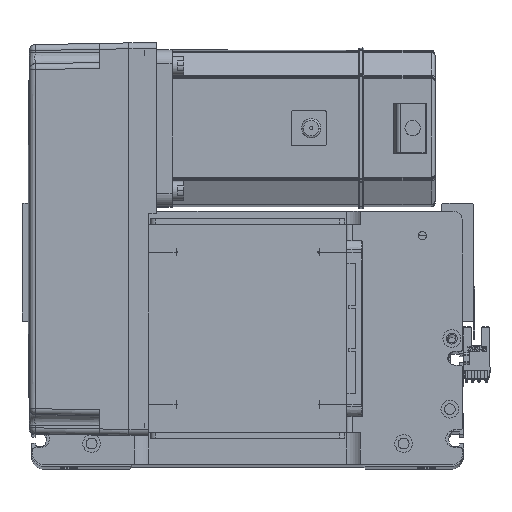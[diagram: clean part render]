
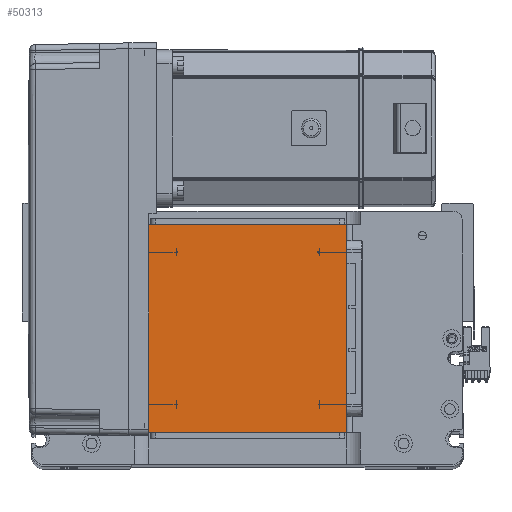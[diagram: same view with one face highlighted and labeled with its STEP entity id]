
A CAD part, top view. The second image highlights one B-rep face of the part: STEP entity #50313.
In plain terms, the highlighted planar face has unit normal (0, 0, 1).
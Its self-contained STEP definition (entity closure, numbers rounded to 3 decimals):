
#914 = VERTEX_POINT ( 'NONE', #3943 ) ;
#2169 = CARTESIAN_POINT ( 'NONE',  ( 0., 0., 115. ) ) ;
#3943 = CARTESIAN_POINT ( 'NONE',  ( -50.5, 16., 115. ) ) ;
#11441 = DIRECTION ( 'NONE',  ( 1., 0., 0. ) ) ;
#11790 = CARTESIAN_POINT ( 'NONE',  ( -50.5, 16., 115. ) ) ;
#12017 = VERTEX_POINT ( 'NONE', #14572 ) ;
#12105 = CARTESIAN_POINT ( 'NONE',  ( 50.5, 122., 115. ) ) ;
#14420 = LINE ( 'NONE', #48901, #18172 ) ;
#14572 = CARTESIAN_POINT ( 'NONE',  ( 50.5, 16., 115. ) ) ;
#14673 = EDGE_CURVE ( 'NONE', #914, #12017, #50913, .T. ) ;
#15340 = DIRECTION ( 'NONE',  ( 0., 1., 0. ) ) ;
#17588 = CARTESIAN_POINT ( 'NONE',  ( -50.5, 122., 115. ) ) ;
#17632 = PLANE ( 'NONE',  #31676 ) ;
#18172 = VECTOR ( 'NONE', #47695, 1000. ) ;
#22370 = ORIENTED_EDGE ( 'NONE', *, *, #30668, .T. ) ;
#22878 = ORIENTED_EDGE ( 'NONE', *, *, #14673, .T. ) ;
#29505 = CARTESIAN_POINT ( 'NONE',  ( -50.5, 122., 115. ) ) ;
#30399 = VECTOR ( 'NONE', #11441, 1000. ) ;
#30668 = EDGE_CURVE ( 'NONE', #36863, #914, #14420, .T. ) ;
#31265 = VECTOR ( 'NONE', #15340, 1000. ) ;
#31676 = AXIS2_PLACEMENT_3D ( 'NONE', #2169, #50120, #38848 ) ;
#33616 = DIRECTION ( 'NONE',  ( -1., 0., 0. ) ) ;
#35312 = EDGE_LOOP ( 'NONE', ( #22370, #22878, #50958, #42904 ) ) ;
#36863 = VERTEX_POINT ( 'NONE', #29505 ) ;
#38848 = DIRECTION ( 'NONE',  ( 1., 0., 0. ) ) ;
#41155 = EDGE_CURVE ( 'NONE', #41916, #36863, #51510, .T. ) ;
#41916 = VERTEX_POINT ( 'NONE', #12105 ) ;
#42904 = ORIENTED_EDGE ( 'NONE', *, *, #41155, .T. ) ;
#43041 = LINE ( 'NONE', #50955, #31265 ) ;
#44784 = EDGE_CURVE ( 'NONE', #12017, #41916, #43041, .T. ) ;
#46878 = FACE_OUTER_BOUND ( 'NONE', #35312, .T. ) ;
#47695 = DIRECTION ( 'NONE',  ( 0., -1., 0. ) ) ;
#47796 = VECTOR ( 'NONE', #33616, 1000. ) ;
#48901 = CARTESIAN_POINT ( 'NONE',  ( -50.5, 122., 115. ) ) ;
#50120 = DIRECTION ( 'NONE',  ( 0., 0., 1. ) ) ;
#50313 = ADVANCED_FACE ( 'NONE', ( #46878 ), #17632, .T. ) ;
#50913 = LINE ( 'NONE', #11790, #30399 ) ;
#50955 = CARTESIAN_POINT ( 'NONE',  ( 50.5, 122., 115. ) ) ;
#50958 = ORIENTED_EDGE ( 'NONE', *, *, #44784, .T. ) ;
#51510 = LINE ( 'NONE', #17588, #47796 ) ;
